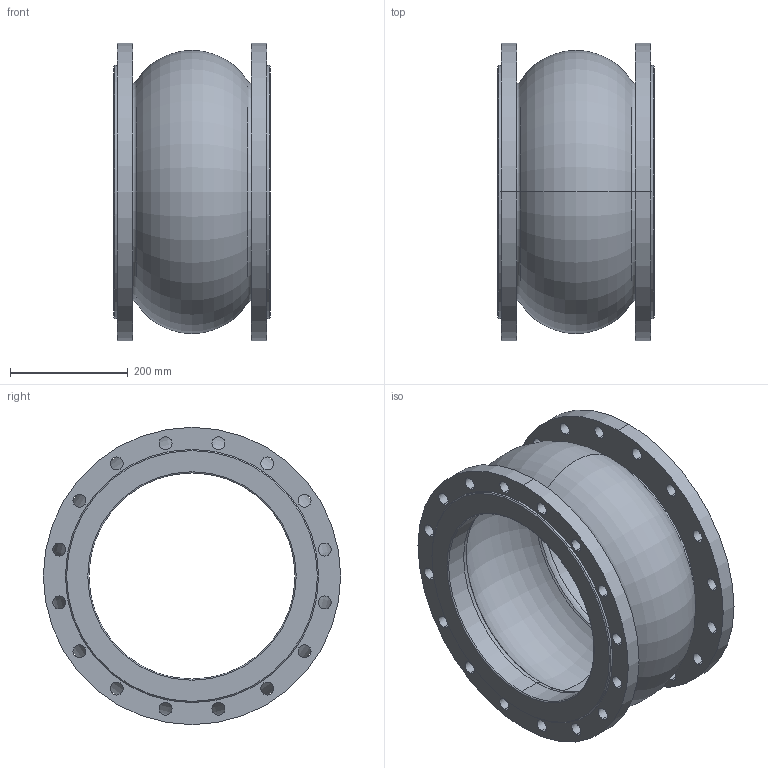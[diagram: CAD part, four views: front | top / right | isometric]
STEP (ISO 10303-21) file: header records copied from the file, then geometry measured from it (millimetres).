
FILE_DESCRIPTION (( 'STEP AP203' ), '1' );
FILE_NAME ('F8_PN10_DN350.STEP', '2012-10-31T09:20:50', ( 'luca.saino' ), ( 'Hewlett-Packard Company' ), 'SwSTEP 2.0', 'SolidWorks 2012', '' );
FILE_SCHEMA (( 'CONFIG_CONTROL_DESIGN' ));
Length unit declared in the file: millimetre
Products named in the file (1): F8_PN10_DN350
Bounding box: 266 x 505 x 505 mm (x, y, z)
Volume: 9796603.8 mm3; surface area: 1252410.2 mm2
Topology: 1 solids, 1 shells, 106 faces, 276 edges, 176 vertices
Faces by surface type: cylinder 76, torus 16, cone 8, plane 6
Entity records: 3549 total; most frequent: DIRECTION 682, CARTESIAN_POINT 559, ORIENTED_EDGE 552, AXIS2_PLACEMENT_3D 299, EDGE_CURVE 276, CIRCLE 192, VERTEX_POINT 176, EDGE_LOOP 176
